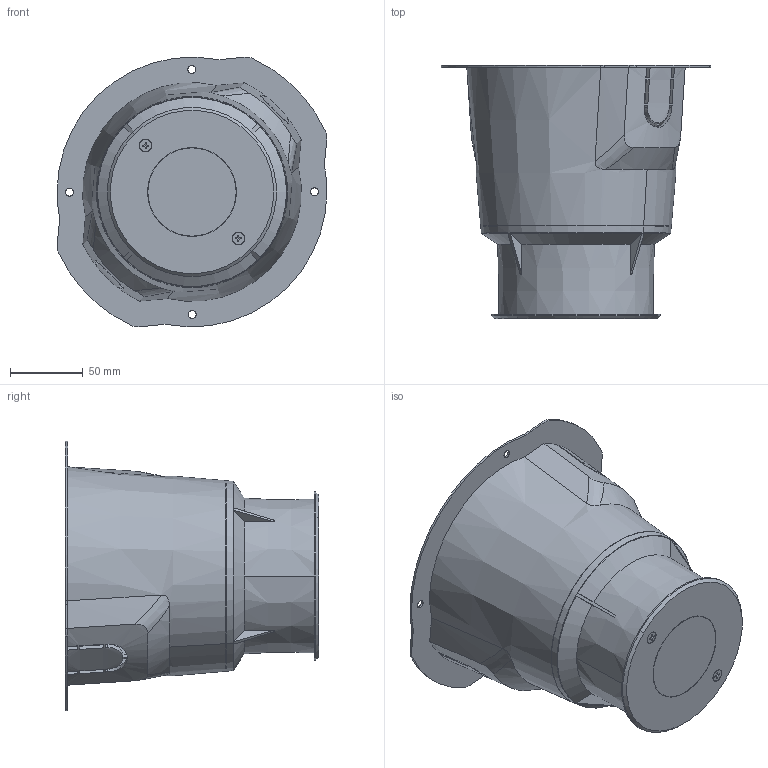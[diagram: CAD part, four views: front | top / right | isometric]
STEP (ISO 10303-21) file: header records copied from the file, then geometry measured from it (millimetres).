
FILE_DESCRIPTION((''),'2;1');
FILE_NAME('ZSB2DFR0126_ASM','2024-08-30T14:12:03',('C029'),(''),'CREO PARAMETRIC BY PTC INC, 2021063','CREO PARAMETRIC BY PTC INC, 2021063','');
FILE_SCHEMA(('CONFIG_CONTROL_DESIGN'));
Length unit declared in the file: millimetre
Products named in the file (20): 2DG-DT_15_7; 2FT-MGVENU_1_4; 2FU-BOLIVENU_1_6; TOU_JING_DI_ZOU_D34_13; TOU_JING_D50_4; TOU_JING_ZJ_D50_ASM_26_ASM; 2DF_FGB_16; 2DF_FGB_1_50; ICRFC0506_3; M4-12-BEI-TOU-LS_1_3_1; PG9_1_1_3_1; 2DH-HG_1_2_1; 2DF_HG_ZJ_ASM_1_ASM; 2DF_SHEN_JI_HUA_ASM_39_ASM; 2CA-2019-12-270001_4_1; 8_2DF-_M4_-_11-19_0001_2; 2EE_A-5_5_8; 2_0001_ASM_14_ASM; B09000_ASM; ZSB2DFR0126_ASM
Assembly tree (23 placements, depth 4):
  ZSB2DFR0126_ASM
    2DF_SHEN_JI_HUA_ASM_39_ASM
      2DG-DT_15_7
      2FT-MGVENU_1_4
      2FU-BOLIVENU_1_6
      TOU_JING_ZJ_D50_ASM_26_ASM
        TOU_JING_DI_ZOU_D34_13
        TOU_JING_D50_4
      2DF_FGB_16
      2DF_FGB_1_50
      ICRFC0506_3  x2
      2DF_HG_ZJ_ASM_1_ASM
        M4-12-BEI-TOU-LS_1_3_1  x4
        PG9_1_1_3_1
        2DH-HG_1_2_1
    B09000_ASM
      2_0001_ASM_14_ASM
        2CA-2019-12-270001_4_1
        8_2DF-_M4_-_11-19_0001_2
        2EE_A-5_5_8
Bounding box: 185 x 173.7 x 184.96 mm (x, y, z)
Volume: 477312.7 mm3; surface area: 352723.7 mm2
Topology: 18 solids, 18 shells, 1994 faces, 5473 edges, 3593 vertices
Faces by surface type: plane 1041, cylinder 510, cone 173, torus 96, bspline 92, extrusion 66, sphere 16
Entity records: 73103 total; most frequent: CARTESIAN_POINT 24849, ORIENTED_EDGE 10358, DIRECTION 9533, EDGE_CURVE 5179, VERTEX_POINT 3441, AXIS2_PLACEMENT_3D 3309, VECTOR 2915, LINE 2849
